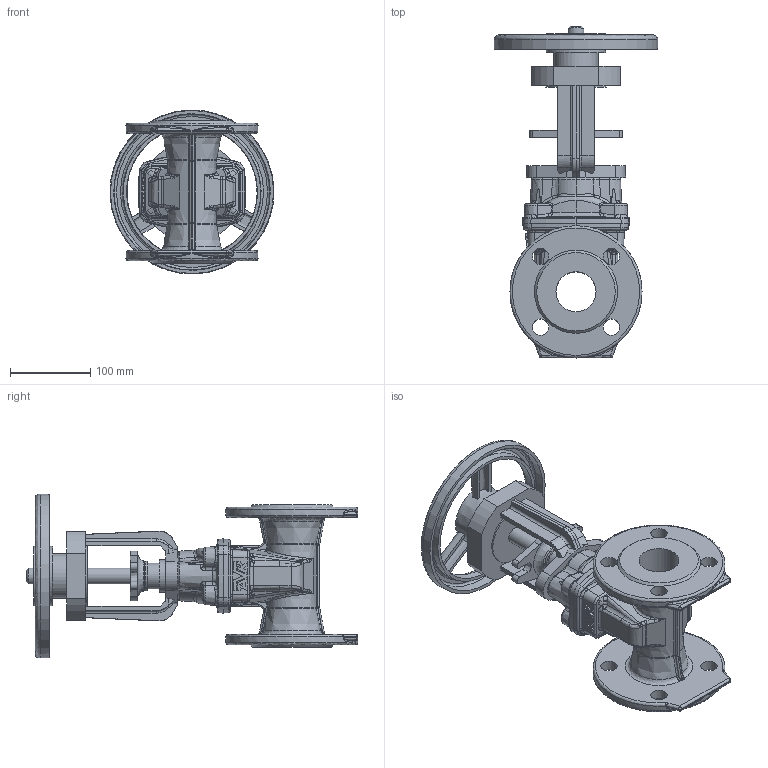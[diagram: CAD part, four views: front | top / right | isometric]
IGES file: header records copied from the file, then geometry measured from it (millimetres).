
Start section: SolidWorks IGES file using analytic representation for surfaces
Global section: file name: \\avksan2\techshare\PBM outline export from Enovia\O_21_34_DN050_41XXXXX close_AA0.igs; native system: SolidWorks 2012; preprocessor: SolidWorks 2012; author: pbm; date: 200212.095454; units: millimetre
Bounding box: 204.91 x 414.67 x 204.91 mm (x, y, z)
Surface area: 361986.4 mm2 (no closed solid volume)
Topology: 0 solids, 0 shells, 841 faces, 4288 edges, 4202 vertices
Faces by surface type: bspline 477, revolution 364
